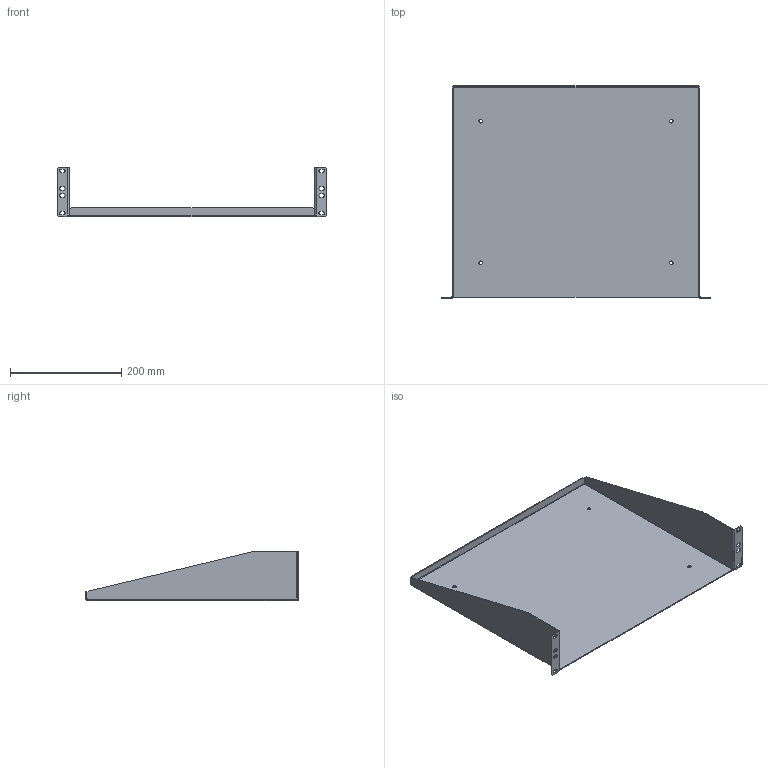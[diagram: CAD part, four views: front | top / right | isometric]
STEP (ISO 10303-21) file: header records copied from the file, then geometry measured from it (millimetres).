
FILE_DESCRIPTION( ( 'Unknown' ), '1' );
FILE_NAME( 'Q:/ACCESSORIES/SHELVES/RK _ RMA/WEB DRAWINGS/STEP/RASU190315.stp', 'Unknown', ( 'Unknown' ), ( 'Unknown' ), 'PSStep 10.1', 'Unknown', ' ' );
FILE_SCHEMA( ( 'AUTOMOTIVE_DESIGN { 1 0 10303 214 1 1 1 1 }' ) );
Length unit declared in the file: millimetre
Products named in the file (1): 1
Bounding box: 482.75 x 381 x 88.09 mm (x, y, z)
Volume: 403004.7 mm3; surface area: 444880.2 mm2
Topology: 1 solids, 1 shells, 100 faces, 278 edges, 180 vertices
Faces by surface type: plane 56, cylinder 40, bspline 4
Full cylindrical faces by diameter (mm): 6.35 x4
Entity records: 3445 total; most frequent: CARTESIAN_POINT 843, ORIENTED_EDGE 540, DIRECTION 524, EDGE_CURVE 270, AXIS2_PLACEMENT_3D 177, VERTEX_POINT 176, LINE 170, VECTOR 170
